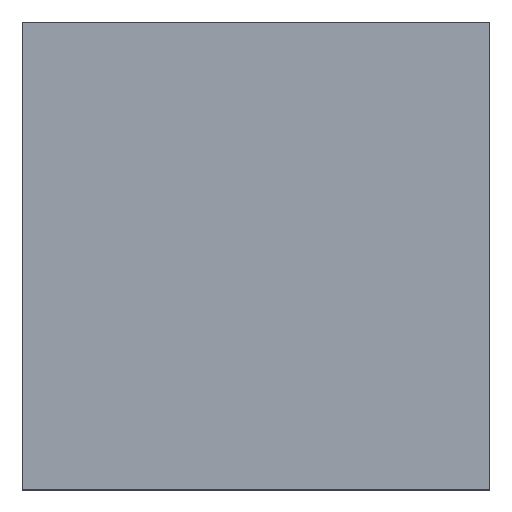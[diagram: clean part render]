
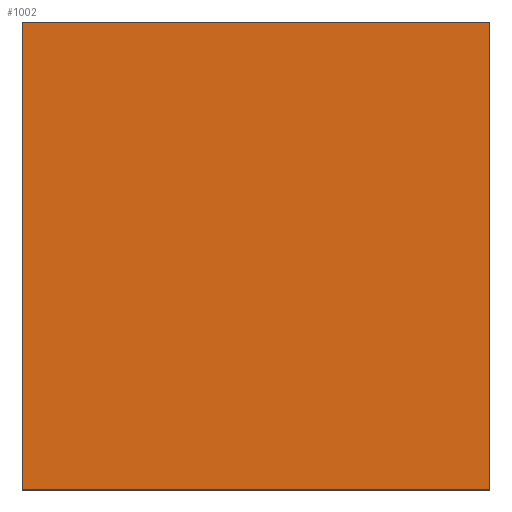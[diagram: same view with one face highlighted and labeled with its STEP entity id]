
A CAD part, top view. The second image highlights one B-rep face of the part: STEP entity #1002.
In plain terms, the highlighted planar face has unit normal (0, 0, 1).
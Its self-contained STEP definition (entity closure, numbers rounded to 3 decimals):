
#33 = PLANE ( 'NONE',  #1241 ) ;
#43 = ORIENTED_EDGE ( 'NONE', *, *, #697, .T. ) ;
#45 = EDGE_LOOP ( 'NONE', ( #1389, #676, #43, #444 ) ) ;
#96 = LINE ( 'NONE', #408, #309 ) ;
#142 = VERTEX_POINT ( 'NONE', #1081 ) ;
#263 = CARTESIAN_POINT ( 'NONE',  ( 0., 0., 10. ) ) ;
#265 = CARTESIAN_POINT ( 'NONE',  ( 0., 38., 10. ) ) ;
#277 = LINE ( 'NONE', #265, #966 ) ;
#284 = DIRECTION ( 'NONE',  ( -1., 0., 0. ) ) ;
#309 = VECTOR ( 'NONE', #739, 1000. ) ;
#408 = CARTESIAN_POINT ( 'NONE',  ( 38., 0., 10. ) ) ;
#444 = ORIENTED_EDGE ( 'NONE', *, *, #476, .T. ) ;
#476 = EDGE_CURVE ( 'NONE', #1287, #876, #277, .T. ) ;
#501 = CARTESIAN_POINT ( 'NONE',  ( 0., 38., 10. ) ) ;
#557 = DIRECTION ( 'NONE',  ( 0., 0., -1. ) ) ;
#576 = VECTOR ( 'NONE', #957, 1000. ) ;
#615 = LINE ( 'NONE', #1183, #576 ) ;
#643 = DIRECTION ( 'NONE',  ( 0., -1., 0. ) ) ;
#646 = EDGE_CURVE ( 'NONE', #994, #142, #615, .T. ) ;
#676 = ORIENTED_EDGE ( 'NONE', *, *, #646, .T. ) ;
#682 = CARTESIAN_POINT ( 'NONE',  ( 0., 0., 10. ) ) ;
#697 = EDGE_CURVE ( 'NONE', #142, #1287, #96, .T. ) ;
#739 = DIRECTION ( 'NONE',  ( 0., 1., 0. ) ) ;
#793 = LINE ( 'NONE', #263, #853 ) ;
#815 = EDGE_CURVE ( 'NONE', #876, #994, #793, .T. ) ;
#853 = VECTOR ( 'NONE', #643, 1000. ) ;
#876 = VERTEX_POINT ( 'NONE', #501 ) ;
#888 = DIRECTION ( 'NONE',  ( -1., 0., 0. ) ) ;
#957 = DIRECTION ( 'NONE',  ( 1., 0., 0. ) ) ;
#966 = VECTOR ( 'NONE', #284, 1000. ) ;
#994 = VERTEX_POINT ( 'NONE', #1108 ) ;
#1002 = ADVANCED_FACE ( 'NONE', ( #1327 ), #33, .F. ) ;
#1081 = CARTESIAN_POINT ( 'NONE',  ( 38., 0., 10. ) ) ;
#1108 = CARTESIAN_POINT ( 'NONE',  ( 0., 0., 10. ) ) ;
#1183 = CARTESIAN_POINT ( 'NONE',  ( 0., 0., 10. ) ) ;
#1241 = AXIS2_PLACEMENT_3D ( 'NONE', #682, #557, #888 ) ;
#1287 = VERTEX_POINT ( 'NONE', #1292 ) ;
#1292 = CARTESIAN_POINT ( 'NONE',  ( 38., 38., 10. ) ) ;
#1327 = FACE_OUTER_BOUND ( 'NONE', #45, .T. ) ;
#1389 = ORIENTED_EDGE ( 'NONE', *, *, #815, .T. ) ;
